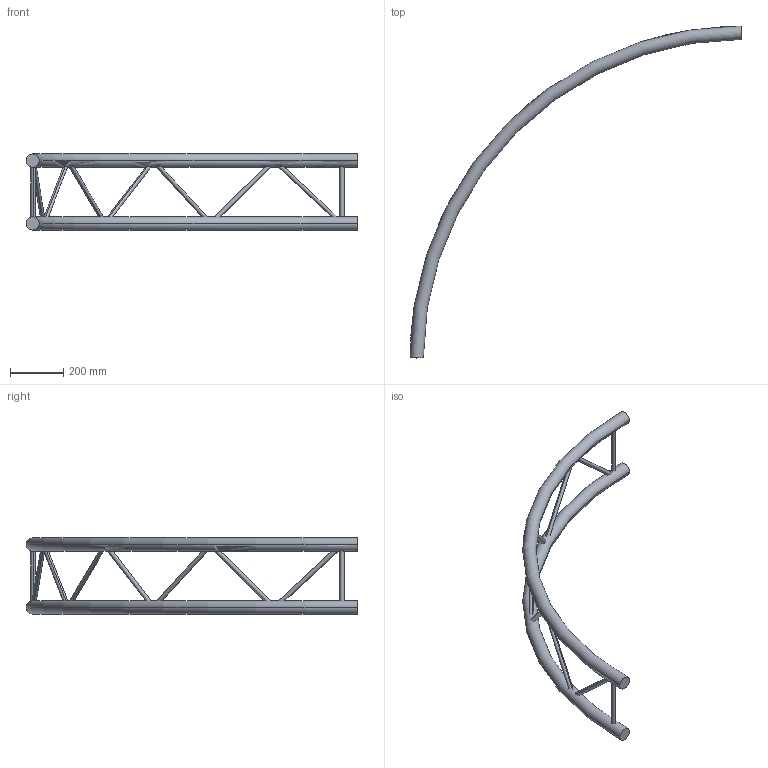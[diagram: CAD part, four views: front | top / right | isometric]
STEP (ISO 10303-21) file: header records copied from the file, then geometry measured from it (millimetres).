
FILE_DESCRIPTION (( 'STEP AP203' ), '1' );
FILE_NAME ('EXC29250V.STEP', '2009-10-26T09:29:50', ( 'CEDIA' ), ( 'CEDIA INDUSTRIE' ), 'SwSTEP 2.0', 'SolidWorks 2009', '' );
FILE_SCHEMA (( 'CONFIG_CONTROL_DESIGN' ));
Length unit declared in the file: millimetre
Products named in the file (1): EXC29250V
Bounding box: 1250 x 1250 x 287 mm (x, y, z)
Volume: 8079781.5 mm3; surface area: 741471.7 mm2
Topology: 2 solids, 2 shells, 35 faces, 84 edges, 54 vertices
Faces by surface type: cylinder 18, plane 13, torus 4
Entity records: 1973 total; most frequent: CARTESIAN_POINT 1111, ORIENTED_EDGE 168, DIRECTION 154, EDGE_CURVE 84, AXIS2_PLACEMENT_3D 66, VERTEX_POINT 54, EDGE_LOOP 44, ADVANCED_FACE 35
